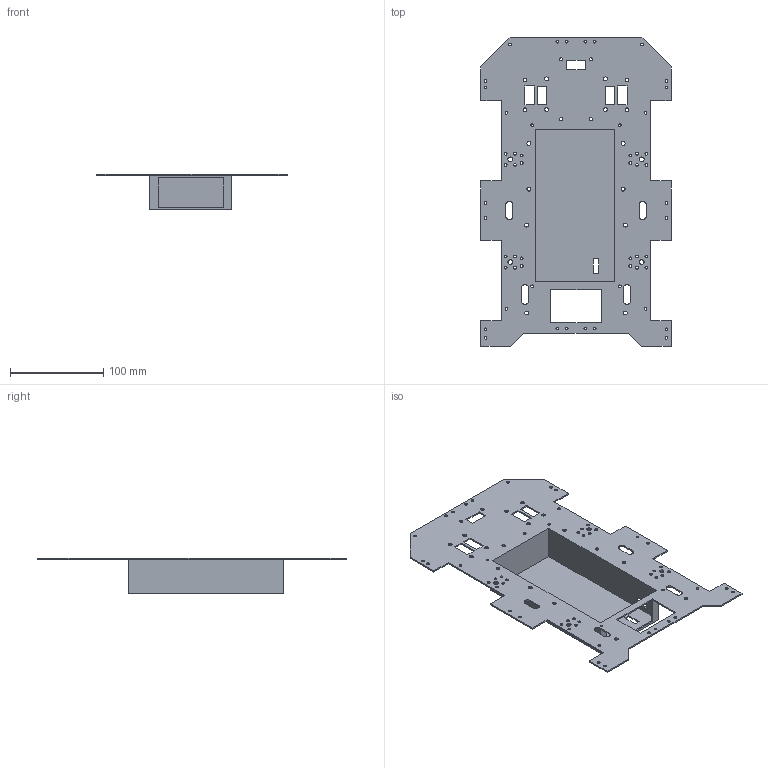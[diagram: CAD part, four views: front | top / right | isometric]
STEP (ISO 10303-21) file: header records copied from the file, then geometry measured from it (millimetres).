
FILE_DESCRIPTION (( 'STEP AP214' ), '1' );
FILE_NAME ('底板铝合金新2.0新电源.STEP', '2023-02-23T02:54:55', ( '' ), ( '' ), 'SwSTEP 2.0', 'SolidWorks 2022', '' );
FILE_SCHEMA (( 'AUTOMOTIVE_DESIGN' ));
Length unit declared in the file: millimetre
Products named in the file (1): 底板铝合金新2.0新电源
Bounding box: 204 x 330 x 38.5 mm (x, y, z)
Volume: 103359.6 mm3; surface area: 142320.5 mm2
Topology: 1 solids, 1 shells, 246 faces, 726 edges, 484 vertices
Faces by surface type: cylinder 164, plane 82
Entity records: 8756 total; most frequent: DIRECTION 1548, CARTESIAN_POINT 1457, ORIENTED_EDGE 1452, EDGE_CURVE 726, AXIS2_PLACEMENT_3D 575, VERTEX_POINT 484, EDGE_LOOP 430, VECTOR 398
